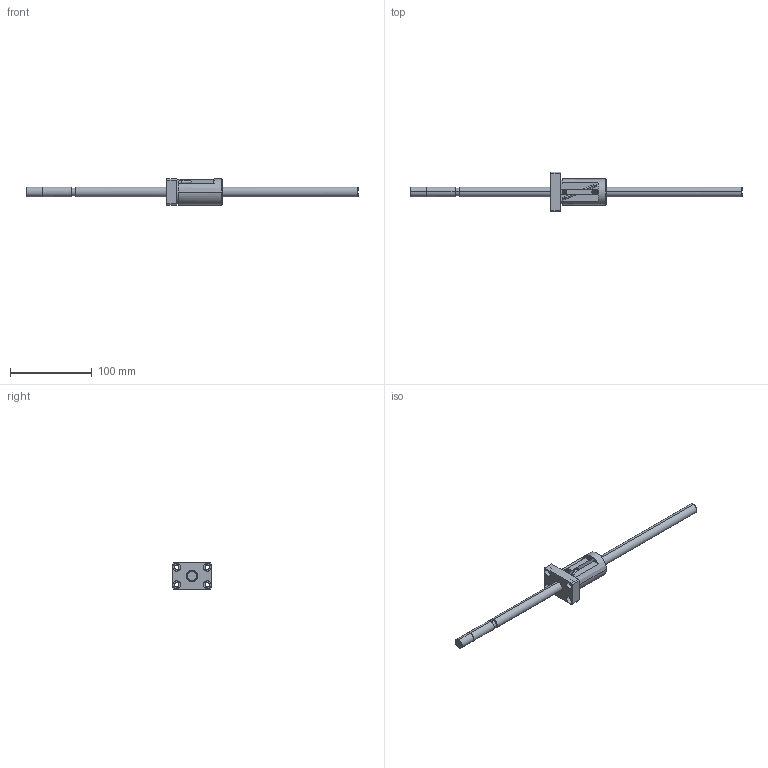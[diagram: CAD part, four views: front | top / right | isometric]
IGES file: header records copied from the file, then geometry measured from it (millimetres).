
Global section: file name: No Iges File Name specified; native system: AutoDesk Inventor R10; preprocessor: AutoDesk Inventor Iges Exporter R10; author: No Author specified; organization: No Organization specified; date: 20101224.140254; units: millimetre
Bounding box: 405 x 48 x 32 mm (x, y, z)
Surface area: 30509.9 mm2 (no closed solid volume)
Topology: 0 solids, 0 shells, 127 faces, 894 edges, 894 vertices
Faces by surface type: bspline 127
